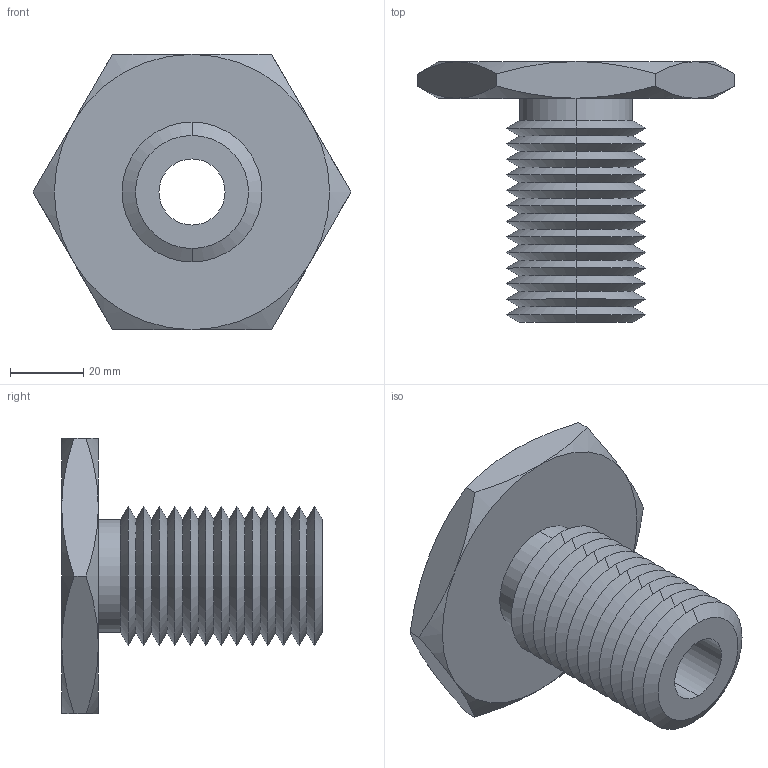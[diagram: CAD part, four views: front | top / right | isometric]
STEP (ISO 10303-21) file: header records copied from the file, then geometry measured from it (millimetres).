
FILE_DESCRIPTION (( 'STEP AP203' ), '1' );
FILE_NAME ('63302.W5150_M18x2,5.step', '2013-12-08T11:44:54', ( 'User' ), ( '' ), 'SwSTEP 2.0', 'SolidWorks 2009', '' );
FILE_SCHEMA (( 'CONFIG_CONTROL_DESIGN' ));
Length unit declared in the file: millimetre
Products named in the file (1): 63302.W5150_M18x2,5
Bounding box: 86.6 x 71 x 75 mm (x, y, z)
Volume: 85417.7 mm3; surface area: 27794.9 mm2
Topology: 1 solids, 1 shells, 79 faces, 162 edges, 86 vertices
Faces by surface type: cone 66, plane 9, cylinder 4
Entity records: 2239 total; most frequent: CARTESIAN_POINT 512, DIRECTION 372, ORIENTED_EDGE 324, EDGE_CURVE 162, AXIS2_PLACEMENT_3D 154, VERTEX_POINT 86, EDGE_LOOP 82, ADVANCED_FACE 79
